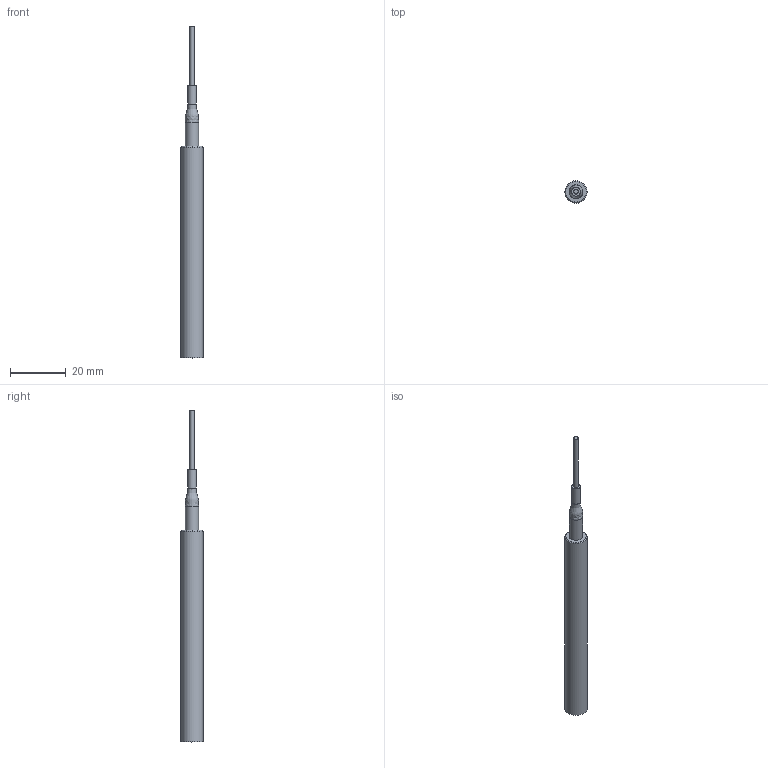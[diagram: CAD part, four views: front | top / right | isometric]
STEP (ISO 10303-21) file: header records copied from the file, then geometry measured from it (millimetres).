
FILE_DESCRIPTION((''),'2;1');
FILE_NAME('Y:\Konstruktion\GTProjekte\ME\Standartsensoren\IFS2403\IFS2403-4.stp','2013-01-17T09:21:46',('sven'),(''),'Autodesk Inventor 2012','Autodesk Inventor 2012','');
FILE_SCHEMA(('AUTOMOTIVE_DESIGN { 1 0 10303 214 1 1 1 1 }'));
Length unit declared in the file: inch
Products named in the file (5): IFS2403-4; faser; ME_S8mm_TypA; 350280; Schrumpfschlauch
Assembly tree (4 placements, depth 2):
  IFS2403-4
    faser
    ME_S8mm_TypA
    350280
    Schrumpfschlauch
Bounding box: 8 x 8 x 119.24 mm (x, y, z)
Volume: 2541.9 mm3; surface area: 4078.7 mm2
Topology: 3 solids, 4 shells, 28 faces, 50 edges, 33 vertices
Faces by surface type: cylinder 11, plane 11, cone 2, sphere 2, revolution 2
Full cylindrical faces by diameter (mm): 0.4 x1, 1.6 x1, 1.712 x1, 2.5 x1, 3.14 x1, 4.695 x1, 5 x1, 5.5 x1, 6.5 x1, 7.2 x1, 8 x1
Entity records: 866 total; most frequent: CARTESIAN_POINT 186, DIRECTION 128, ORIENTED_EDGE 64, AXIS2_PLACEMENT_3D 63, EDGE_LOOP 50, EDGE_CURVE 32, VERTEX_POINT 30, CIRCLE 28
